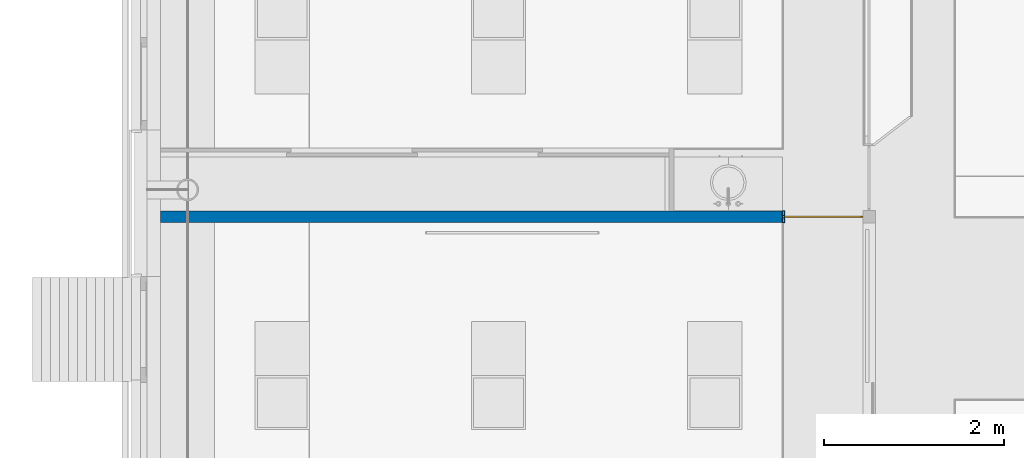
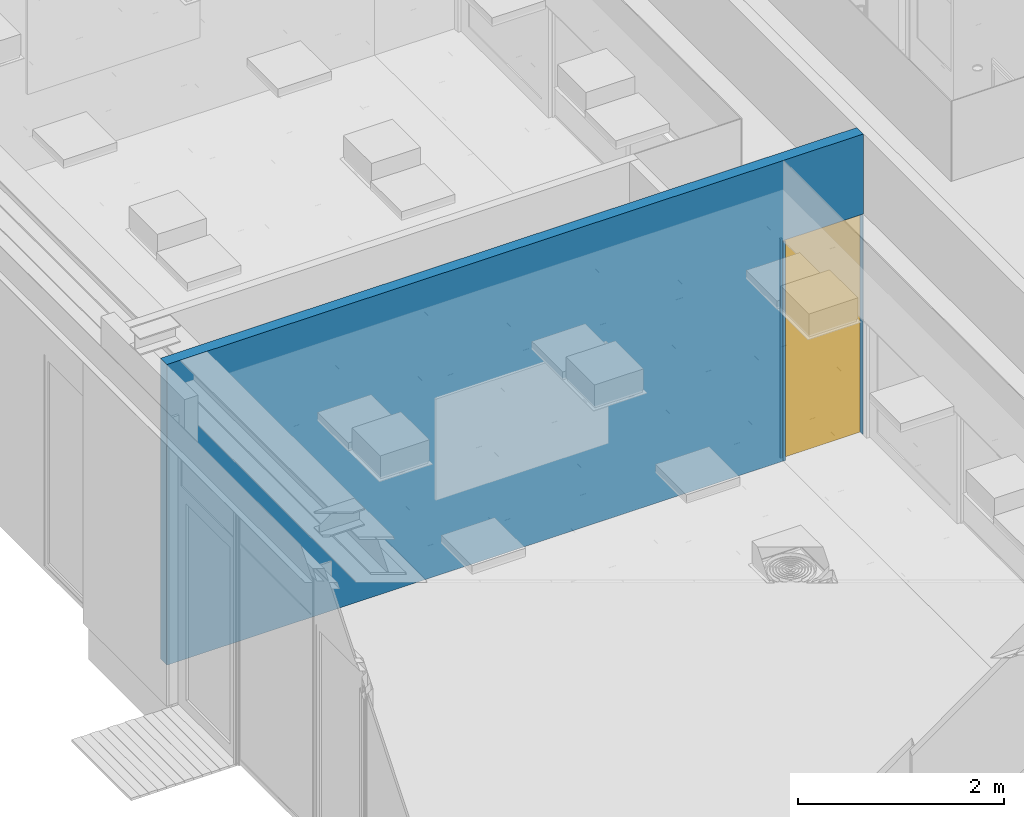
# One storey, part 49 of 347: 2 building element parts, 1 wall, 1 window, 2 openings, 1 element without a shape of its own.
"""IFC2X3 building model written with IfcOpenShell, lengths in millimetres."""

import ifcopenshell
import ifcopenshell.guid

model = None  # the IFC model being written
_history = None  # IfcOwnerHistory: only IFC2X3 demands one
_inside = {}  # id of a spatial element -> (the spatial element, [elements in it])
_under = {}  # id of a project, library or spatial element -> (it, [spatial elements below it])
_declared = {}  # id of a project -> (the project, [libraries it declares])
_typed = {}  # id of a type object -> (the type object, [elements of that type])
_made_of = {}  # id of a material, layer set ... -> (it, [elements and type objects made of it])


def new_model(schema):
    """Start an empty IFC model of exactly this schema.

    Asked for "IFC4X3", IfcOpenShell would pick the latest addendum, in which some entities
    have other attributes; the version numbers below select the first issue.
    IFC2X3 requires an IfcOwnerHistory on every rooted entity: one is made here for all.
    """
    global model, _history
    if schema == "IFC4X3":
        model = ifcopenshell.file(schema_version=(4, 3, 0, 0))
    else:
        model = ifcopenshell.file(schema=schema)
    _inside.clear()
    _under.clear()
    _declared.clear()
    _typed.clear()
    _made_of.clear()
    _history = None
    if model.schema == "IFC2X3":
        org = make("IfcOrganization", Name="unknown")
        user = make(
            "IfcPersonAndOrganization",
            ThePerson=make("IfcPerson", FamilyName="unknown"),
            TheOrganization=org,
        )
        app = make(
            "IfcApplication",
            ApplicationDeveloper=org,
            Version="unknown",
            ApplicationFullName="unknown",
            ApplicationIdentifier="unknown",
        )
        _history = make(
            "IfcOwnerHistory",
            OwningUser=user,
            OwningApplication=app,
            ChangeAction="ADDED",
            CreationDate=0,
        )
    return model


def make(cls, **values):
    """One entity of the class cls with the attributes given. An attribute that is None is left unset."""
    return model.create_entity(
        cls, **{name: value for name, value in values.items() if value is not None}
    )


def entity(cls, *values):
    """Any entity or typed value of the class cls, its attributes in the order of the schema. None: left unset."""
    e = model.create_entity(cls)
    for i, value in enumerate(values):
        if value is not None:
            e[i] = value
    return e


def rooted(cls, **values):
    """An entity with a GlobalId (a new one), such as an element, a storey or a relation."""
    return make(cls, GlobalId=ifcopenshell.guid.new(), OwnerHistory=_history, **values)


def si_unit(unit_type, name, prefix=None):
    """IfcSIUnit, for example si_unit("LENGTHUNIT", "METRE", prefix="MILLI")."""
    return make("IfcSIUnit", UnitType=unit_type, Prefix=prefix, Name=name)


def converted_unit(unit_type, name, factor, base, dimensions=None, offset=None):
    """IfcConversionBasedUnit, such as the inch: factor (a typed value) times the base unit."""
    return make(
        "IfcConversionBasedUnit"
        if offset is None
        else "IfcConversionBasedUnitWithOffset",
        ConversionOffset=offset,
        Dimensions=None
        if dimensions is None
        else entity("IfcDimensionalExponents", *dimensions),
        UnitType=unit_type,
        Name=name,
        ConversionFactor=make(
            "IfcMeasureWithUnit", ValueComponent=factor, UnitComponent=base
        ),
    )


def derived_unit(unit_type, elements):
    """IfcDerivedUnit: a product of units, each with its exponent."""
    return make(
        "IfcDerivedUnit",
        Elements=[
            make("IfcDerivedUnitElement", Unit=unit, Exponent=power)
            for unit, power in elements
        ],
        UnitType=unit_type,
    )


def money_unit(currency):
    """IfcMonetaryUnit."""
    return make("IfcMonetaryUnit", Currency=currency)


def assignment(units):
    """IfcUnitAssignment: the units of a project."""
    return None if units is None else make("IfcUnitAssignment", Units=units)


def point(xyz):
    """IfcCartesianPoint."""
    return None if xyz is None else make("IfcCartesianPoint", Coordinates=xyz)


def direction(xyz):
    """IfcDirection."""
    return None if xyz is None else make("IfcDirection", DirectionRatios=xyz)


def frame(location, z_axis=None, x_axis=None):
    """IfcAxis2Placement3D, a coordinate frame: its origin and axes. An axis left out is left unset."""
    return make(
        "IfcAxis2Placement3D",
        Location=point(location),
        Axis=direction(z_axis),
        RefDirection=direction(x_axis),
    )


def origin_with_axes():
    """The frame at (0, 0, 0) with the z axis (0, 0, 1) and the x axis (1, 0, 0) written out."""
    return frame((0.0, 0.0, 0.0), z_axis=(0.0, 0.0, 1.0), x_axis=(1.0, 0.0, 0.0))


def place(relative_to, where):
    """IfcLocalPlacement: puts the frame where relative to a parent placement (None: the world)."""
    return make(
        "IfcLocalPlacement", PlacementRelTo=relative_to, RelativePlacement=where
    )


def context(
    kind, dimensions, precision=None, world=None, true_north=None, identifier=None
):
    """IfcGeometricRepresentationContext, for example the 3D "Model" context."""
    return make(
        "IfcGeometricRepresentationContext",
        ContextIdentifier=identifier,
        ContextType=kind,
        CoordinateSpaceDimension=dimensions,
        Precision=precision,
        WorldCoordinateSystem=world,
        TrueNorth=true_north,
    )


def subcontext(parent, identifier, kind, view, scale=None):
    """IfcGeometricRepresentationSubContext, for example "Body" below "Model"."""
    return make(
        "IfcGeometricRepresentationSubContext",
        ContextIdentifier=identifier,
        ContextType=kind,
        ParentContext=parent,
        TargetScale=scale,
        TargetView=view,
    )


def project(units=None, contexts=None):
    """IfcProject with its units and contexts."""
    return rooted(
        "IfcProject",
        Name="project",
        RepresentationContexts=contexts,
        UnitsInContext=assignment(units),
    )


def spatial(cls, under=None, at=None, **own):
    """A site, building, storey or space (cls), placed at a placement, below another one or the project."""
    s = rooted(cls, ObjectPlacement=at, **own)
    if under is not None:
        _under.setdefault(under.id(), (under, []))[1].append(s)
    return s


def faces_of(points, faces, orient=None, outer=None):
    """IfcFace entities. A face is a list of loops; a loop is a list of indices into points, from 0.

    orient and outer hold one flag for each loop. By default every Orientation is true, the
    first loop of a face is its IfcFaceOuterBound and the others are IfcFaceBound.
    """
    made = []
    for i, loops in enumerate(faces):
        bounds = []
        for j, loop in enumerate(loops):
            is_outer = j == 0 if outer is None else outer[i][j]
            bounds.append(
                make(
                    "IfcFaceOuterBound" if is_outer else "IfcFaceBound",
                    Bound=make("IfcPolyLoop", Polygon=[points[k] for k in loop]),
                    Orientation=True if orient is None else orient[i][j],
                )
            )
        made.append(make("IfcFace", Bounds=bounds))
    return made


def open_shell(faces, orient=None, outer=None):
    """The faces of one IfcOpenShell. surface_model builds it on its shared points."""
    return ("IfcOpenShell", faces, orient, outer)


def faceted_brep(points, faces, orient=None, outer=None, voids=None):
    """IfcFacetedBrep: a solid bounded by flat faces; with voids (closed shells), ...WithVoids."""
    shared = [point(p) for p in points]
    hull = make("IfcClosedShell", CfsFaces=faces_of(shared, faces, orient, outer))
    if voids is None:
        return make("IfcFacetedBrep", Outer=hull)
    return make(
        "IfcFacetedBrepWithVoids",
        Outer=hull,
        Voids=[
            make(cls, CfsFaces=faces_of(shared, fs, o, b)) for cls, fs, o, b in voids
        ],
    )


def surface_model(cls, points, shells):
    """IfcFaceBasedSurfaceModel or IfcShellBasedSurfaceModel (cls): surfaces that need not close."""
    shared = [point(p) for p in points]
    made = [make(c, CfsFaces=faces_of(shared, fs, o, b)) for c, fs, o, b in shells]
    if cls == "IfcFaceBasedSurfaceModel":
        return make(cls, FbsmFaces=made)
    return make(cls, SbsmBoundary=made)


def shape(context_of_items, identifier, shape_type, items):
    """IfcShapeRepresentation: the items that make up one representation, for example the "Body"."""
    return make(
        "IfcShapeRepresentation",
        ContextOfItems=context_of_items,
        RepresentationIdentifier=identifier,
        RepresentationType=shape_type,
        Items=items,
    )


def source(mapping_origin, context_of_items, identifier, shape_type, items):
    """IfcRepresentationMap: a shape defined once, which mapped items show again and again."""
    return make(
        "IfcRepresentationMap",
        MappingOrigin=mapping_origin,
        MappedRepresentation=shape(context_of_items, identifier, shape_type, items),
    )


def transform(
    local_origin,
    x_axis=None,
    y_axis=None,
    z_axis=None,
    scale=None,
    scale2=None,
    scale3=None,
    uniform=True,
):
    """IfcCartesianTransformationOperator3D, or its non-uniform kind. x_axis, y_axis, z_axis: its Axis1, 2, 3."""
    if uniform:
        return make(
            "IfcCartesianTransformationOperator3D",
            Axis1=direction(x_axis),
            Axis2=direction(y_axis),
            LocalOrigin=point(local_origin),
            Scale=scale,
            Axis3=direction(z_axis),
        )
    return make(
        "IfcCartesianTransformationOperator3DnonUniform",
        Axis1=direction(x_axis),
        Axis2=direction(y_axis),
        LocalOrigin=point(local_origin),
        Scale=scale,
        Axis3=direction(z_axis),
        Scale2=scale2,
        Scale3=scale3,
    )


def mapped(mapping_source, mapping_target):
    """IfcMappedItem: shows the shape of a source again, moved by a transform."""
    return make(
        "IfcMappedItem", MappingSource=mapping_source, MappingTarget=mapping_target
    )


def material(Name=None, Category=None):
    """IfcMaterial."""
    return make("IfcMaterial", Name=Name, Category=Category)


def made_of(thing, what):
    """Note that an element or type object is made of a material, layer set ...; save() writes the relation."""
    if what is not None:
        _made_of.setdefault(what.id(), (what, []))[1].append(thing)
    return thing


def type_object(cls, material=None, **own):
    """A type object (cls), such as IfcWallType, which elements share."""
    return made_of(rooted(cls, **own), material)


def type_shapes(of_type, sources):
    """Give a type object the sources (RepresentationMaps) that its elements show as mapped items."""
    of_type.RepresentationMaps = sources


def element(
    cls,
    number,
    at=None,
    inside=None,
    cuts=None,
    type_object=None,
    material=None,
    context=None,
    identifier="Body",
    shape_type=None,
    held_by="IfcProductDefinitionShape",
    body=None,
    shapes=None,
    **own,
):
    """One element of the class cls, such as IfcWall. Its Tag is "e" and its number.

    at: its placement. inside: the storey or other place that contains it. cuts: it is an
    opening in that element (IfcRelVoidsElement). A single representation is given by context,
    identifier, shape_type and body (its items); several are given by shapes. held_by: the class
    of the entity that holds the representations. save() writes the other relations.
    """
    e = rooted(cls, Tag="e%d" % number, ObjectPlacement=at, **own)
    if body is not None:
        shapes = [shape(context, identifier, shape_type, body)]
    if shapes is not None:
        e.Representation = make(held_by, Representations=shapes)
    if inside is not None:
        _inside.setdefault(inside.id(), (inside, []))[1].append(e)
    if cuts is not None:
        rooted(
            "IfcRelVoidsElement", RelatingBuildingElement=cuts, RelatedOpeningElement=e
        )
    if type_object is not None:
        _typed.setdefault(type_object.id(), (type_object, []))[1].append(e)
    return made_of(e, material)


def fill(opening, filler):
    """IfcRelFillsElement: the door or window that sits in an opening."""
    return rooted(
        "IfcRelFillsElement",
        RelatingOpeningElement=opening,
        RelatedBuildingElement=filler,
    )


def aggregate(whole, parts):
    """IfcRelAggregates: a whole, such as a stair, and the parts it consists of."""
    return rooted("IfcRelAggregates", RelatingObject=whole, RelatedObjects=parts)


def save(model, path):
    """Write the relations noted so far, then the file.

    IfcRelAggregates (storeys below a building ...), IfcRelContainedInSpatialStructure (elements
    in a storey), IfcRelDefinesByType, IfcRelAssociatesMaterial and IfcRelDeclares: one each for
    every whole, place, type object, material and project.
    """
    for whole, parts in _under.values():
        aggregate(whole, parts)
    for where, things in _inside.values():
        rooted(
            "IfcRelContainedInSpatialStructure",
            RelatedElements=things,
            RelatingStructure=where,
        )
    for kind, things in _typed.values():
        rooted("IfcRelDefinesByType", RelatedObjects=things, RelatingType=kind)
    for what, things in _made_of.values():
        rooted("IfcRelAssociatesMaterial", RelatedObjects=things, RelatingMaterial=what)
    for by, libraries in _declared.values():
        rooted("IfcRelDeclares", RelatingContext=by, RelatedDefinitions=libraries)
    model.write(path)


model = new_model("IFC2X3")

# Units and contexts
model_context = context("Model", 3, precision=0.01, world=origin_with_axes(), true_north=direction((0.0, 1.0)))
plan_context = context("Plan", 3, precision=0.01, world=origin_with_axes(), true_north=direction((0.0, 1.0)))
body_context = subcontext(model_context, "Body", "Model", "MODEL_VIEW")
ifc_project = project(units=[si_unit("LENGTHUNIT", "METRE", prefix="MILLI"), si_unit("AREAUNIT", "SQUARE_METRE"), si_unit("VOLUMEUNIT", "CUBIC_METRE"), converted_unit("PLANEANGLEUNIT", "DEGREE", entity("IfcPlaneAngleMeasure", 0.0174532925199), si_unit("PLANEANGLEUNIT", "RADIAN"), dimensions=[0, 0, 0, 0, 0, 0, 0]), money_unit("EUR"), converted_unit("TIMEUNIT", "Year", entity("IfcTimeMeasure", 31556926.0), si_unit("TIMEUNIT", "SECOND"), dimensions=[0, 0, 1, 0, 0, 0, 0]), si_unit("MASSUNIT", "GRAM", prefix="KILO"), si_unit("THERMODYNAMICTEMPERATUREUNIT", "DEGREE_CELSIUS"), si_unit("LUMINOUSINTENSITYUNIT", "LUMEN"), si_unit("ENERGYUNIT", "JOULE", prefix="MEGA"), derived_unit("THERMALCONDUCTANCEUNIT", [(si_unit("POWERUNIT", "WATT"), 1), (si_unit("LENGTHUNIT", "METRE"), -1), (si_unit("THERMODYNAMICTEMPERATUREUNIT", "KELVIN"), -1)]), derived_unit("SPECIFICHEATCAPACITYUNIT", [(si_unit("ENERGYUNIT", "JOULE"), 1), (si_unit("MASSUNIT", "GRAM", prefix="KILO"), -1), (si_unit("THERMODYNAMICTEMPERATUREUNIT", "KELVIN"), -1)]), derived_unit("MASSDENSITYUNIT", [(si_unit("MASSUNIT", "GRAM", prefix="KILO"), 1), (si_unit("VOLUMEUNIT", "CUBIC_METRE"), -1)])], contexts=[model_context, plan_context])

# Site, building, storey
site_placement = place(None, origin_with_axes())
site = spatial("IfcSite", under=ifc_project, at=site_placement, Name="Site", CompositionType="ELEMENT")
building_placement = place(site_placement, origin_with_axes())
building = spatial("IfcBuilding", under=site, at=building_placement, Name="Naam gebouw", CompositionType="ELEMENT")
storey_placement = place(building_placement, origin_with_axes())
storey = spatial("IfcBuildingStorey", under=building, at=storey_placement, Name="begane grond", CompositionType="ELEMENT", Elevation=0.0)

# Wall, openings, windows, building element parts
ifc_material_1 = material(Name="ALG - LICHTE SCHEIDINGSWAND")
wall_type = type_object("IfcWallType", Name="ALG LSW 125 125", PredefinedType="NOTDEFINED")
wall_placement = place(storey_placement, frame((24275.0, 27975.0, 0.0), z_axis=(0.0, 0.0, 1.0), x_axis=(1.0, 0.0, 0.0)))
wall = element("IfcWall", 1, at=wall_placement, inside=storey, type_object=wall_type, material=ifc_material_1, Name="22_GF 125 ECO DGS/2.75.2A", context=body_context, shape_type="Brep", body=[
    faceted_brep([(7793.0, 62.5, 0.0), (7793.0, -62.5, 0.0), (7793.0, -62.5, 2600.0), (7793.0, 62.5, 2600.0), (7800.0, -62.5, -1.15295062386e-06), (7800.0, 62.5, -1.15295062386e-06), (7800.0, -62.5, 2600.0), (7800.0, 62.5, 2600.0)], [[[0, 1, 2, 3]], [[4, 1, 0, 5]], [[6, 2, 1, 4]], [[3, 2, 6, 7]], [[0, 3, 7, 5]], [[7, 6, 4, 5]]]),
    faceted_brep([(6900.0, -62.5, 2612.0), (6900.0, -62.5, 2600.0), (6900.0, 62.5, 2600.0), (6900.0, 62.5, 2612.0), (8.19565215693e-06, -62.5, -3.65078798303e-05), (6900.0, -62.5, 0.0), (7800.0, -62.5, 2612.0), (7800.0, -62.5, 3559.99999992), (8.19565215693e-06, -62.5, 3560.0), (6900.0, 62.5, 0.0), (8.19565215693e-06, 62.5, 3560.0), (7800.0, 62.5, 3559.99999992), (7800.0, 62.5, 2612.0), (8.19565215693e-06, 62.5, -3.65078798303e-05)], [[[0, 1, 2, 3]], [[4, 5, 1, 0, 6, 7, 8]], [[2, 1, 5, 9]], [[10, 11, 12, 3, 2, 9, 13]], [[3, 12, 6, 0]], [[9, 5, 4, 13]], [[6, 12, 11, 7]], [[11, 10, 8, 7]], [[8, 10, 13, 4]]]),
])
opening_1_placement = place(wall_placement, frame((7346.5, 0.0, 0.0), z_axis=(0.0, 0.0, 1.0), x_axis=(1.0, 0.0, 0.0)))
opening_1 = element("IfcOpeningElement", 2, at=opening_1_placement, cuts=wall, Name="32_10.02", context=body_context, shape_type="Brep", body=[
    faceted_brep([(-446.5, 10.0, 2600.0), (-446.5, 10.0, 0.0), (-446.5, -187.5, 0.0), (-446.5, -187.5, 2600.0), (446.5, 10.0, 2600.0), (446.5, 10.0, 0.0), (446.5, -187.5, 0.0), (446.5, -187.5, 2600.0)], [[[0, 1, 2, 3]], [[0, 4, 5, 1]], [[1, 5, 6, 2]], [[3, 2, 6, 7]], [[4, 0, 3, 7]], [[5, 4, 7, 6]]]),
    faceted_brep([(-446.5, 10.0, 0.0), (-446.5, 10.0, 2600.0), (-446.5, 187.5, 2600.0), (-446.5, 187.5, 0.0), (446.5, 10.0, 0.0), (446.5, 10.0, 2600.0), (446.5, 187.5, 2600.0), (446.5, 187.5, 0.0)], [[[0, 1, 2, 3]], [[0, 4, 5, 1]], [[1, 5, 6, 2]], [[3, 2, 6, 7]], [[4, 0, 3, 7]], [[5, 4, 7, 6]]]),
])
opening_2_placement = place(wall_placement, frame((6912.5, 0.0, 0.0), z_axis=(0.0, 0.0, 1.0), x_axis=(1.0, 0.0, 0.0)))
opening_2 = element("IfcOpeningElement", 3, at=opening_2_placement, cuts=wall, Name="31_-", context=body_context, shape_type="Brep", body=[
    faceted_brep([(12.5, -187.5, 2600.0), (12.5, -187.5, 0.0), (12.5, -12.5, 0.0), (12.5, -12.5, 2600.0), (-12.5, -187.5, 2600.0), (-12.5, -187.5, 0.0), (-12.5, -12.5, 0.0), (-12.5, -12.5, 2600.0)], [[[0, 1, 2, 3]], [[0, 4, 5, 1]], [[1, 5, 6, 2]], [[3, 2, 6, 7]], [[4, 0, 3, 7]], [[5, 4, 7, 6]]]),
    faceted_brep([(12.5, 162.5, 0.0), (12.5, 162.5, 2600.0), (12.5, -12.5, 2600.0), (12.5, -12.5, 0.0), (-12.5, 162.5, 0.0), (-12.5, 162.5, 2600.0), (-12.5, -12.5, 2600.0), (-12.5, -12.5, 0.0)], [[[0, 1, 2, 3]], [[0, 4, 5, 1]], [[1, 5, 6, 2]], [[3, 2, 6, 7]], [[4, 0, 3, 7]], [[5, 4, 7, 6]]]),
])
window_style_1 = type_object("IfcWindowStyle", Name="R1 25", ConstructionType="NOTDEFINED", OperationType="SINGLE_PANEL", ParameterTakesPrecedence=False, Sizeable=False)
shared_shape_1 = source(origin_with_axes(), body_context, "Body", "SurfaceModel", [
    faceted_brep([(426.5, -20.0, 2580.0), (446.5, -20.0, 2580.0), (446.5, 0.0, 2580.0), (426.5, 0.0, 2580.0), (426.5, -20.0, 20.0), (446.5, -20.0, 20.0), (446.5, 0.0, 20.0), (426.5, 0.0, 20.0)], [[[0, 1, 2, 3]], [[0, 4, 5, 1]], [[1, 5, 6, 2]], [[3, 2, 6, 7]], [[4, 0, 3, 7]], [[5, 4, 7, 6]]]),
    faceted_brep([(-426.5, -20.0, 20.0), (-446.5, -20.0, 20.0), (-446.5, 0.0, 20.0), (-426.5, 0.0, 20.0), (-426.5, -20.0, 2580.0), (-446.5, -20.0, 2580.0), (-446.5, 0.0, 2580.0), (-426.5, 0.0, 2580.0)], [[[0, 1, 2, 3]], [[0, 4, 5, 1]], [[1, 5, 6, 2]], [[3, 2, 6, 7]], [[4, 0, 3, 7]], [[5, 4, 7, 6]]]),
    faceted_brep([(426.5, -20.0, 20.0), (446.5, -20.0, 20.0), (446.5, 0.0, 20.0), (426.5, 0.0, 20.0), (-426.5, -20.0, 20.0), (-446.5, -20.0, 20.0), (-446.5, -20.0, 0.0), (446.5, -20.0, 0.0), (446.5, 0.0, 0.0), (-446.5, 0.0, 0.0), (-446.5, 0.0, 20.0), (-426.5, 0.0, 20.0)], [[[0, 1, 2, 3]], [[0, 4, 5, 6, 7, 1]], [[1, 7, 8, 2]], [[3, 2, 8, 9, 10, 11]], [[4, 0, 3, 11]], [[5, 4, 11, 10]], [[6, 5, 10, 9]], [[7, 6, 9, 8]]]),
    faceted_brep([(-426.5, -20.0, 2580.0), (-446.5, -20.0, 2580.0), (-446.5, 0.0, 2580.0), (-426.5, 0.0, 2580.0), (426.5, -20.0, 2580.0), (446.5, -20.0, 2580.0), (446.5, -20.0, 2600.0), (-446.5, -20.0, 2600.0), (-446.5, 0.0, 2600.0), (446.5, 0.0, 2600.0), (446.5, 0.0, 2580.0), (426.5, 0.0, 2580.0)], [[[0, 1, 2, 3]], [[0, 4, 5, 6, 7, 1]], [[1, 7, 8, 2]], [[3, 2, 8, 9, 10, 11]], [[4, 0, 3, 11]], [[5, 4, 11, 10]], [[6, 5, 10, 9]], [[7, 6, 9, 8]]]),
    surface_model("IfcShellBasedSurfaceModel", [(426.5, -20.0, 20.0), (426.5, -20.0, 2580.0), (-426.5, -20.0, 2580.0), (-426.5, -20.0, 20.0)], [open_shell([[[0, 1, 2, 3]]])]),
    surface_model("IfcShellBasedSurfaceModel", [(426.5, 0.0, 20.0), (-426.5, 0.0, 20.0), (-426.5, 0.0, 2580.0), (426.5, 0.0, 2580.0)], [open_shell([[[0, 1, 2, 3]]])]),
])
type_shapes(window_style_1, [shared_shape_1])
window_1_placement = place(opening_1_placement, frame((-446.5, 0.0, 0.0), z_axis=(0.0, 0.0, 1.0), x_axis=(1.0, 0.0, 0.0)))
window_1 = element("IfcWindow", 4, at=window_1_placement, inside=storey, type_object=window_style_1, Name="32_10.02", ObjectType="WINDOW", OverallHeight=2600.0, OverallWidth=893.0, context=body_context, shape_type="MappedRepresentation", body=[
    mapped(shared_shape_1, transform((446.5, 10.0, 0.0))),
])
fill(opening_1, window_1)
window_style_2 = type_object("IfcWindowStyle", Name="32 glaslatten 125mm wand", ConstructionType="NOTDEFINED", OperationType="NOTDEFINED", ParameterTakesPrecedence=False, Sizeable=False)
window_2_placement = place(opening_2_placement, frame((12.5, 0.0, 0.0), z_axis=(0.0, 0.0, 1.0), x_axis=(-1.0, 0.0, 0.0)))
window_2 = element("IfcWindow", 5, at=window_2_placement, inside=storey, type_object=window_style_2, Name="31_-", ObjectType="WINDOW", OverallHeight=2600.0, OverallWidth=25.0)
fill(opening_2, window_2)
ifc_material_2 = material(Name="32 Hout binnenkozijn")
shared_shape_2 = source(origin_with_axes(), body_context, "Body", "Brep", [
    faceted_brep([(12.5, -77.0, 2600.0), (-12.5, -77.0, 2600.0), (-12.5, -77.0, 0.0), (12.5, -77.0, 0.0), (12.5, -25.0, 2600.0), (-12.5, -25.0, 2600.0), (-12.5, -25.0, 0.0), (12.5, -25.0, 0.0)], [[[0, 1, 2, 3]], [[0, 4, 5, 1]], [[1, 5, 6, 2]], [[3, 2, 6, 7]], [[4, 0, 3, 7]], [[5, 4, 7, 6]]]),
    faceted_brep([(12.5, 0.0, 2600.0), (-12.5, 0.0, 2600.0), (-12.5, 0.0, 0.0), (12.5, 0.0, 0.0), (12.5, 52.0, 2600.0), (-12.5, 52.0, 2600.0), (-12.5, 52.0, 0.0), (12.5, 52.0, 0.0)], [[[0, 1, 2, 3]], [[0, 4, 5, 1]], [[1, 5, 6, 2]], [[3, 2, 6, 7]], [[4, 0, 3, 7]], [[5, 4, 7, 6]]]),
])
building_element_part_1_placement = place(window_2_placement, origin_with_axes())
building_element_part_1 = element("IfcBuildingElementPart", 6, at=building_element_part_1_placement, material=ifc_material_2, Name="32 Hout binnenkozijn", context=body_context, shape_type="MappedRepresentation", body=[
    mapped(shared_shape_2, transform((12.5, 12.5, 0.0))),
])
ifc_material_3 = material(Name="Membraan - rubber")
shared_shape_3 = source(origin_with_axes(), body_context, "Body", "Brep", [
    faceted_brep([(12.5, -25.0, 2600.0), (-12.5, -25.0, 2600.0), (-12.5, -25.0, 0.0), (12.5, -25.0, 0.0), (12.5, 0.0, 2600.0), (-12.5, 0.0, 2600.0), (-12.5, 0.0, 0.0), (12.5, 0.0, 0.0)], [[[0, 1, 2, 3]], [[0, 4, 5, 1]], [[1, 5, 6, 2]], [[3, 2, 6, 7]], [[4, 0, 3, 7]], [[5, 4, 7, 6]]]),
])
building_element_part_2_placement = place(window_2_placement, origin_with_axes())
building_element_part_2 = element("IfcBuildingElementPart", 7, at=building_element_part_2_placement, material=ifc_material_3, Name="Membraan - rubber", context=body_context, shape_type="MappedRepresentation", body=[
    mapped(shared_shape_3, transform((12.5, 12.5, 0.0))),
])
aggregate(window_2, [building_element_part_1, building_element_part_2])

save(model, "model.ifc")
